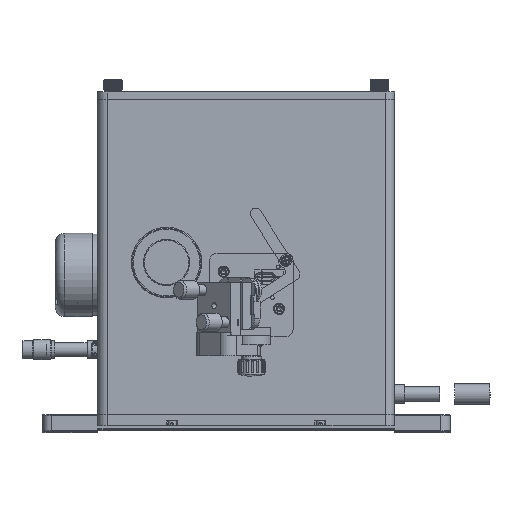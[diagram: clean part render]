
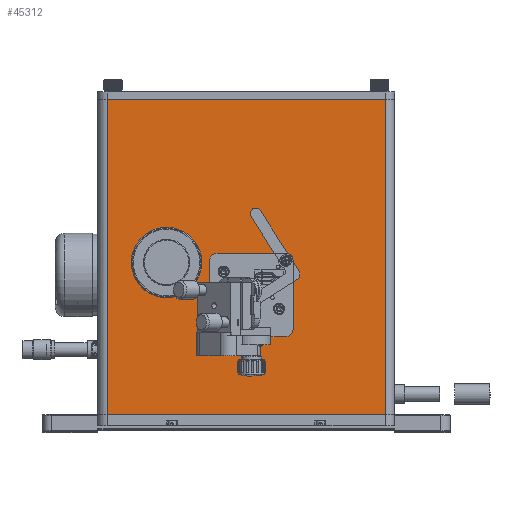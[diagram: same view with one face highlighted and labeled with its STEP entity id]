
A CAD part, top view. The second image highlights one B-rep face of the part: STEP entity #45312.
In plain terms, the highlighted planar face has unit normal (0, 0, 1).
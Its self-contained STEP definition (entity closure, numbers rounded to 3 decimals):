
#1844=FACE_BOUND('',#8184,.T.);
#1845=FACE_BOUND('',#8185,.T.);
#1846=FACE_BOUND('',#8186,.T.);
#1847=FACE_BOUND('',#8187,.T.);
#1848=FACE_BOUND('',#8188,.T.);
#1849=FACE_BOUND('',#8189,.T.);
#1850=FACE_BOUND('',#8190,.T.);
#3283=CIRCLE('',#48779,18.);
#3284=CIRCLE('',#48780,1.5);
#3285=CIRCLE('',#48781,1.5);
#3286=CIRCLE('',#48782,1.23);
#3287=CIRCLE('',#48783,1.23);
#3288=CIRCLE('',#48784,10.);
#3289=CIRCLE('',#48785,4.);
#5954=FACE_OUTER_BOUND('',#8183,.T.);
#8183=EDGE_LOOP('',(#36146,#36147,#36148,#36149));
#8184=EDGE_LOOP('',(#36150));
#8185=EDGE_LOOP('',(#36151));
#8186=EDGE_LOOP('',(#36152));
#8187=EDGE_LOOP('',(#36153));
#8188=EDGE_LOOP('',(#36154));
#8189=EDGE_LOOP('',(#36155));
#8190=EDGE_LOOP('',(#36156));
#10958=LINE('',#73335,#14805);
#10959=LINE('',#73339,#14806);
#10960=LINE('',#73341,#14807);
#10961=LINE('',#73342,#14808);
#14805=VECTOR('',#56909,10.);
#14806=VECTOR('',#56914,10.);
#14807=VECTOR('',#56915,10.);
#14808=VECTOR('',#56916,10.);
#19480=VERTEX_POINT('',#73332);
#19481=VERTEX_POINT('',#73334);
#19482=VERTEX_POINT('',#73338);
#19483=VERTEX_POINT('',#73340);
#19484=VERTEX_POINT('',#73343);
#19485=VERTEX_POINT('',#73345);
#19486=VERTEX_POINT('',#73347);
#19487=VERTEX_POINT('',#73349);
#19488=VERTEX_POINT('',#73351);
#19489=VERTEX_POINT('',#73353);
#19490=VERTEX_POINT('',#73355);
#25892=EDGE_CURVE('',#19481,#19480,#10958,.T.);
#25894=EDGE_CURVE('',#19480,#19482,#10959,.T.);
#25895=EDGE_CURVE('',#19483,#19482,#10960,.T.);
#25896=EDGE_CURVE('',#19483,#19481,#10961,.T.);
#25897=EDGE_CURVE('',#19484,#19484,#3283,.T.);
#25898=EDGE_CURVE('',#19485,#19485,#3284,.T.);
#25899=EDGE_CURVE('',#19486,#19486,#3285,.T.);
#25900=EDGE_CURVE('',#19487,#19487,#3286,.T.);
#25901=EDGE_CURVE('',#19488,#19488,#3287,.T.);
#25902=EDGE_CURVE('',#19489,#19489,#3288,.T.);
#25903=EDGE_CURVE('',#19490,#19490,#3289,.T.);
#36146=ORIENTED_EDGE('',*,*,#25894,.T.);
#36147=ORIENTED_EDGE('',*,*,#25895,.F.);
#36148=ORIENTED_EDGE('',*,*,#25896,.T.);
#36149=ORIENTED_EDGE('',*,*,#25892,.T.);
#36150=ORIENTED_EDGE('',*,*,#25897,.F.);
#36151=ORIENTED_EDGE('',*,*,#25898,.T.);
#36152=ORIENTED_EDGE('',*,*,#25899,.T.);
#36153=ORIENTED_EDGE('',*,*,#25900,.T.);
#36154=ORIENTED_EDGE('',*,*,#25901,.T.);
#36155=ORIENTED_EDGE('',*,*,#25902,.T.);
#36156=ORIENTED_EDGE('',*,*,#25903,.T.);
#41572=PLANE('',#48778);
#45312=ADVANCED_FACE('',(#5954,#1844,#1845,#1846,#1847,#1848,#1849,#1850),
#41572,.T.);
#48778=AXIS2_PLACEMENT_3D('',#73337,#56912,#56913);
#48779=AXIS2_PLACEMENT_3D('',#73344,#56917,#56918);
#48780=AXIS2_PLACEMENT_3D('',#73346,#56919,#56920);
#48781=AXIS2_PLACEMENT_3D('',#73348,#56921,#56922);
#48782=AXIS2_PLACEMENT_3D('',#73350,#56923,#56924);
#48783=AXIS2_PLACEMENT_3D('',#73352,#56925,#56926);
#48784=AXIS2_PLACEMENT_3D('',#73354,#56927,#56928);
#48785=AXIS2_PLACEMENT_3D('',#73356,#56929,#56930);
#56909=DIRECTION('',(0.,1.,0.));
#56912=DIRECTION('center_axis',(0.,0.,
1.));
#56913=DIRECTION('ref_axis',(0.,-1.,0.));
#56914=DIRECTION('',(-1.,0.,0.));
#56915=DIRECTION('',(0.,1.,0.));
#56916=DIRECTION('',(1.,0.,0.));
#56917=DIRECTION('center_axis',(0.,0.,
1.));
#56918=DIRECTION('ref_axis',(-1.,0.,0.));
#56919=DIRECTION('center_axis',(0.,0.,
-1.));
#56920=DIRECTION('ref_axis',(1.,0.,0.));
#56921=DIRECTION('center_axis',(0.,0.,
-1.));
#56922=DIRECTION('ref_axis',(1.,0.,0.));
#56923=DIRECTION('center_axis',(0.,0.,
-1.));
#56924=DIRECTION('ref_axis',(1.,0.,0.));
#56925=DIRECTION('center_axis',(0.,0.,
-1.));
#56926=DIRECTION('ref_axis',(1.,0.,0.));
#56927=DIRECTION('center_axis',(0.,0.,
-1.));
#56928=DIRECTION('ref_axis',(1.,0.,0.));
#56929=DIRECTION('center_axis',(0.,0.,
-1.));
#56930=DIRECTION('ref_axis',(-1.,0.,0.));
#73332=CARTESIAN_POINT('',(226.666,-97.146,386.031));
#73334=CARTESIAN_POINT('',(226.666,-267.146,386.031));
#73335=CARTESIAN_POINT('',(226.666,-267.146,386.031));
#73337=CARTESIAN_POINT('Origin',(226.666,-267.146,386.031));
#73338=CARTESIAN_POINT('',(76.666,-97.146,386.031));
#73339=CARTESIAN_POINT('',(76.666,-97.146,386.031));
#73340=CARTESIAN_POINT('',(76.666,-267.146,386.031));
#73341=CARTESIAN_POINT('',(76.666,-267.146,386.031));
#73342=CARTESIAN_POINT('',(76.666,-267.146,386.031));
#73343=CARTESIAN_POINT('',(126.666,-185.146,386.031));
#73344=CARTESIAN_POINT('Origin',(108.666,-185.146,386.031));
#73345=CARTESIAN_POINT('',(155.916,-210.146,386.031));
#73346=CARTESIAN_POINT('Origin',(154.416,-210.146,386.031));
#73347=CARTESIAN_POINT('',(155.916,-185.146,386.031));
#73348=CARTESIAN_POINT('Origin',(154.416,-185.146,386.031));
#73349=CARTESIAN_POINT('',(140.645,-190.146,386.031));
#73350=CARTESIAN_POINT('Origin',(139.416,-190.146,386.031));
#73351=CARTESIAN_POINT('',(170.645,-210.146,386.031));
#73352=CARTESIAN_POINT('Origin',(169.416,-210.146,386.031));
#73353=CARTESIAN_POINT('',(169.916,-196.646,386.031));
#73354=CARTESIAN_POINT('Origin',(159.916,-196.646,386.031));
#73355=CARTESIAN_POINT('',(145.916,-200.146,386.031));
#73356=CARTESIAN_POINT('Origin',(141.916,-200.146,386.031));
